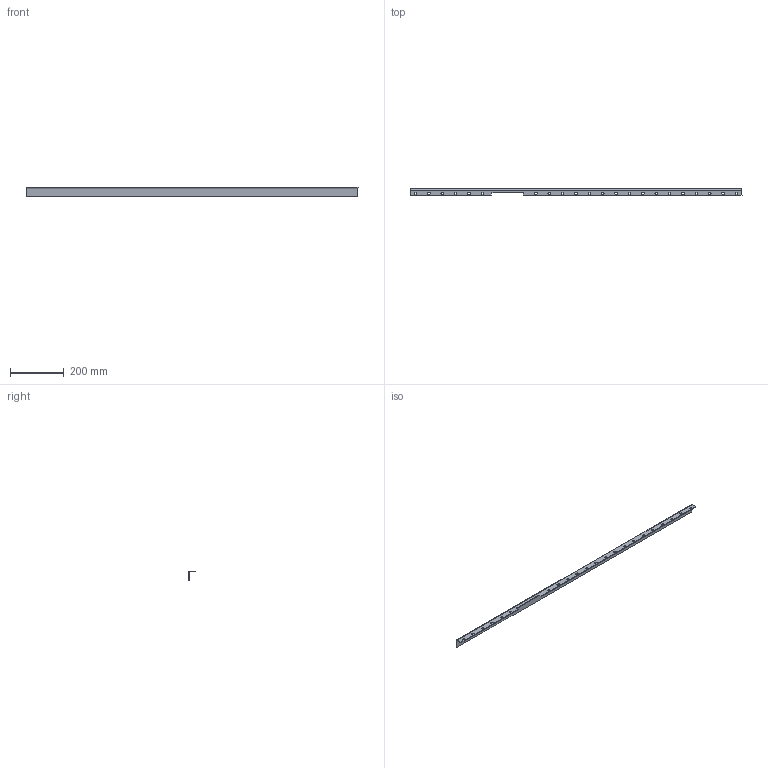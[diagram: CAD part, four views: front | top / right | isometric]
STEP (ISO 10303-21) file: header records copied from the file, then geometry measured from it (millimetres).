
FILE_DESCRIPTION (( 'STEP AP203' ), '1' );
FILE_NAME ('ORW-72.24.20.10.005 赶鎀鍧.STEP', '2025-10-13T13:18:56', ( '燴僽樥' ), ( '' ), 'SwSTEP 2.0', 'SolidWorks 2025', '' );
FILE_SCHEMA (( 'CONFIG_CONTROL_DESIGN' ));
Length unit declared in the file: millimetre
Products named in the file (1): ORW-72.24.20.10.005 Уголок_-01
Bounding box: 1241 x 25 x 36 mm (x, y, z)
Volume: 202389 mm3; surface area: 144454.4 mm2
Topology: 1 solids, 1 shells, 108 faces, 310 edges, 204 vertices
Faces by surface type: plane 60, cylinder 48
Entity records: 3709 total; most frequent: DIRECTION 624, CARTESIAN_POINT 623, ORIENTED_EDGE 620, EDGE_CURVE 310, LINE 214, VECTOR 214, AXIS2_PLACEMENT_3D 205, VERTEX_POINT 204
